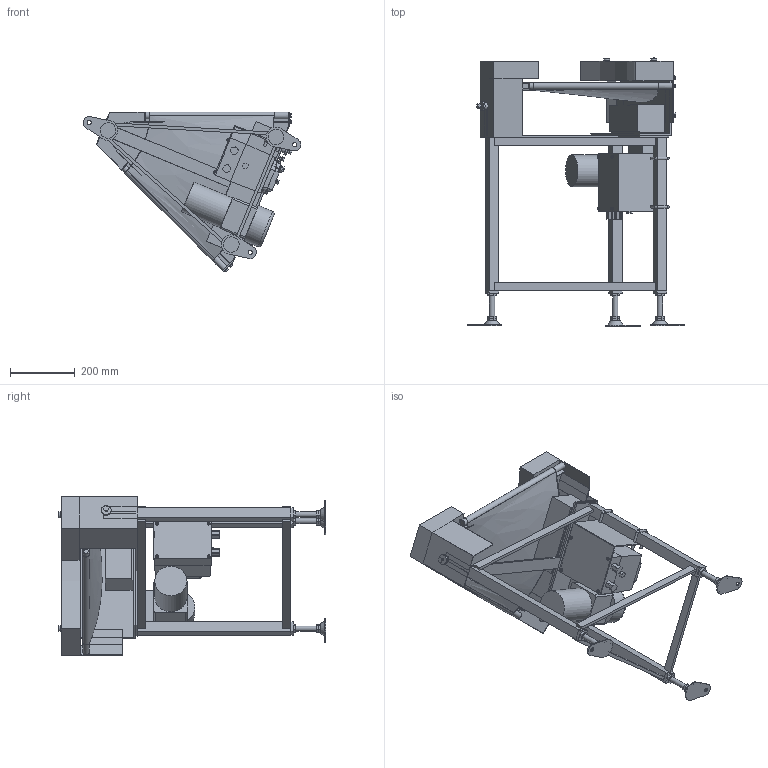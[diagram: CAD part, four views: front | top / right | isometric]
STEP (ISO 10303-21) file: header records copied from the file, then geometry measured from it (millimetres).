
FILE_DESCRIPTION (( 'STEP AP214' ), '1' );
FILE_NAME ('GFBC45-UD300-L.STEP', '2022-09-08T07:36:03', ( '' ), ( '' ), 'SwSTEP 2.0', 'SolidWorks 2017', '' );
FILE_SCHEMA (( 'AUTOMOTIVE_DESIGN' ));
Length unit declared in the file: millimetre
Products named in the file (1): GFBC45-UD300-L
Bounding box: 673.18 x 827.92 x 494.15 mm (x, y, z)
Volume: 17756415 mm3; surface area: 2667178.5 mm2
Topology: 54 solids, 55 shells, 932 faces, 2115 edges, 1371 vertices
Faces by surface type: plane 682, cylinder 187, bspline 45, cone 10, torus 6, sphere 2
Full cylindrical faces by diameter (mm): 4 x4, 4.2 x2, 4.5 x1, 5 x4, 5.9 x4, 6 x9, 7 x1, 7.6 x4, 8 x15, 9 x6, 10 x2, 12 x1, 12.2 x2, 12.5 x7, 13 x7, 15 x4, 16 x9, 18 x2, 18.4 x1, 20 x7, 21 x1, 25 x1, 30 x6, 99 x1
Entity records: 42807 total; most frequent: CARTESIAN_POINT 11717, DIRECTION 4013, ORIENTED_EDGE 3934, EDGE_CURVE 1967, LINE 1407, VECTOR 1407, VERTEX_POINT 1343, AXIS2_PLACEMENT_3D 1303
